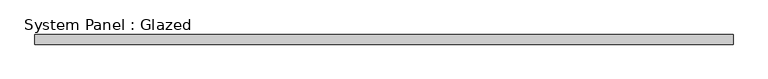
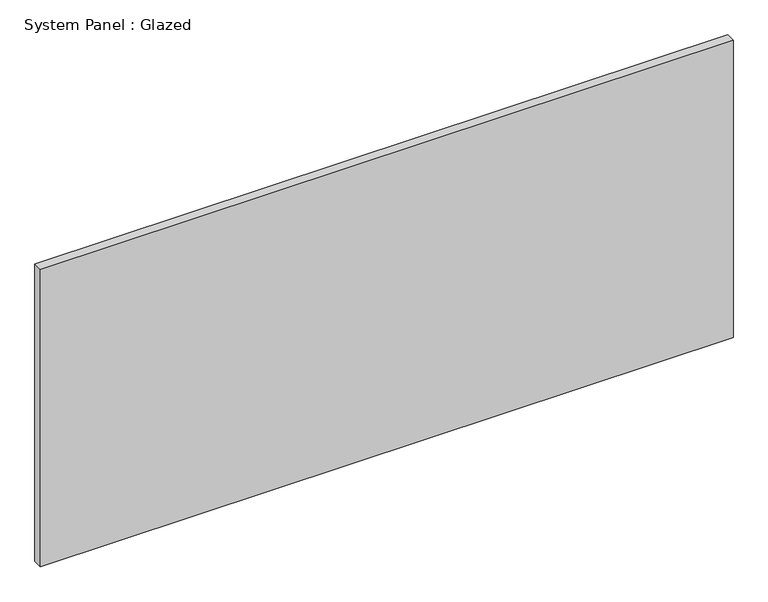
"""IFC4 building model written with IfcOpenShell, lengths in millimetres: plate geometry, System Panel : Glazed."""

from ifc_helpers import new_model, si_unit, origin, origin_with_axes, place, context, project, spatial, polyline, outline, extrude, source, transform, mapped, element, save


def system_panel_glazed_87d094ba(model_context):
    return source(origin(), model_context, "Body", "SweptSolid", [
        extrude(outline(polyline([(908.5889212, 24.5), (-908.5889212, 24.5), (-908.5889212, 49.5), (908.5889212, 49.5), (908.5889212, 24.5)])), origin_with_axes(), (0.0, 0.0, 1.0), 825.0),
    ])


if __name__ == "__main__":
    model = new_model("IFC4")
    model_context = context("Model", 3, world=origin())
    ifc_project = project(units=[si_unit("LENGTHUNIT", "METRE", prefix="MILLI")], contexts=[model_context])
    site = spatial("IfcSite", under=ifc_project)
    building = spatial("IfcBuilding", under=site)
    placement = place(None, origin())
    system_panel_glazed_shape = system_panel_glazed_87d094ba(model_context)
    element("IfcPlate", 1, ObjectType="System Panel : Glazed", at=placement, inside=building, context=model_context, shape_type="MappedRepresentation", body=[
        mapped(system_panel_glazed_shape, transform((0.0, 0.0, 0.0), x_axis=(1.0, 0.0, 0.0), y_axis=(0.0, 1.0, 0.0), z_axis=(0.0, 0.0, 1.0))),
    ])
    save(model, "model.ifc")
